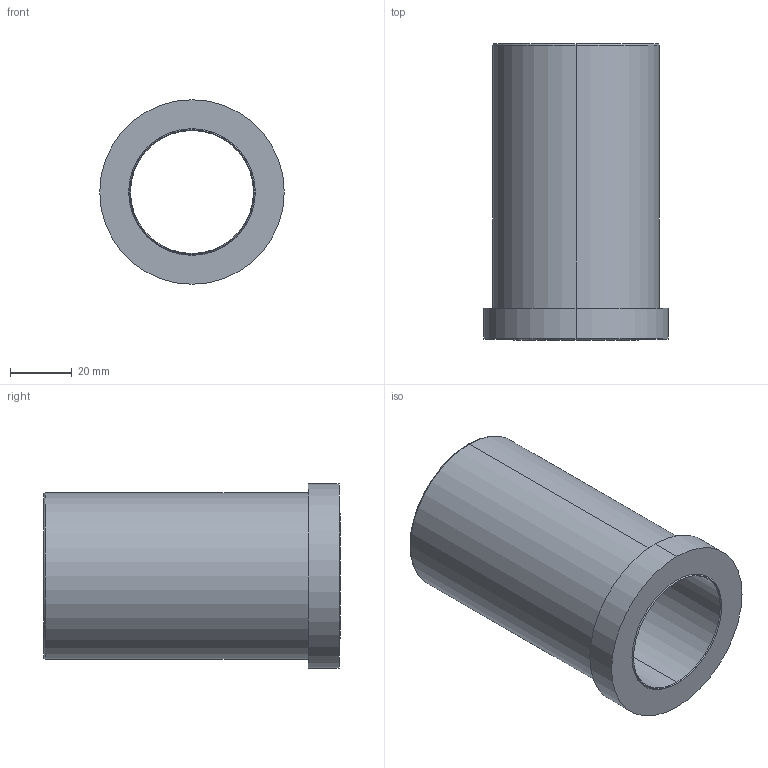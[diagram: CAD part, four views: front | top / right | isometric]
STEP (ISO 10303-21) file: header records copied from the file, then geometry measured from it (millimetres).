
FILE_DESCRIPTION (( 'STEP AP214' ), '1' );
FILE_NAME ('BR11W 40 x 96.STEP', '2020-07-16T11:30:38', ( 'August' ), ( '' ), 'SwSTEP 2.0', 'SolidWorks 2018', '' );
FILE_SCHEMA (( 'AUTOMOTIVE_DESIGN' ));
Length unit declared in the file: millimetre
Products named in the file (1): BR11W 40 x 96
Bounding box: 60 x 96.36 x 60 mm (x, y, z)
Volume: 104585 mm3; surface area: 31650.3 mm2
Topology: 1 solids, 1 shells, 17 faces, 34 edges, 20 vertices
Faces by surface type: cone 6, cylinder 6, plane 3, torus 2
Entity records: 484 total; most frequent: DIRECTION 92, CARTESIAN_POINT 72, ORIENTED_EDGE 68, AXIS2_PLACEMENT_3D 40, EDGE_CURVE 34, CIRCLE 22, EDGE_LOOP 20, VERTEX_POINT 20
